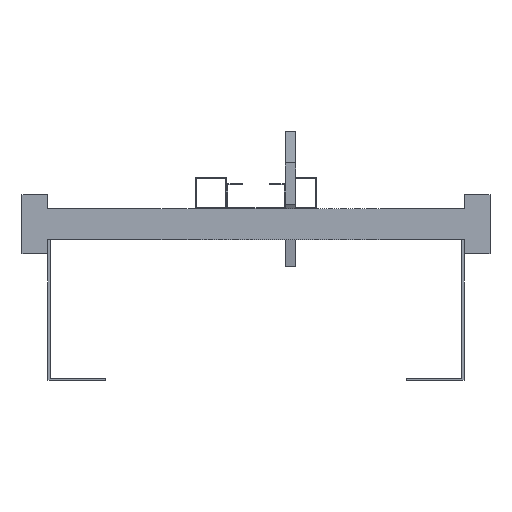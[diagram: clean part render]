
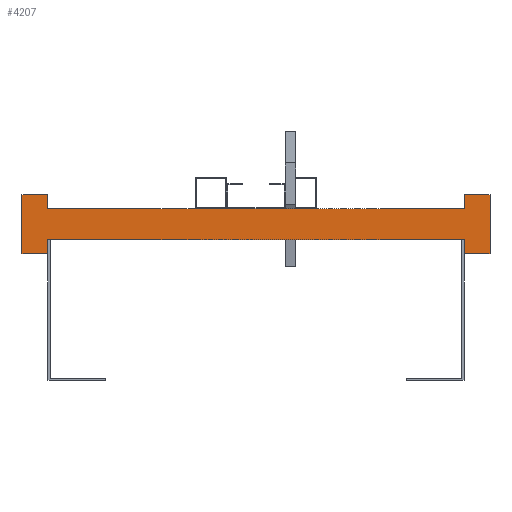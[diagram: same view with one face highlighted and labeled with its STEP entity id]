
A CAD part, front view. The second image highlights one B-rep face of the part: STEP entity #4207.
In plain terms, the highlighted planar face has unit normal (0, -1, 0).
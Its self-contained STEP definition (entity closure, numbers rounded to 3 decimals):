
#1425=DIRECTION('',(0.,0.,1.));
#1426=VECTOR('',#1425,13.5);
#1427=CARTESIAN_POINT('',(200.,0.,-28.5));
#1428=LINE('',#1427,#1426);
#1429=DIRECTION('',(0.,0.,-1.));
#1430=VECTOR('',#1429,13.5);
#1431=CARTESIAN_POINT('',(-200.,0.,-15.));
#1432=LINE('',#1431,#1430);
#1433=DIRECTION('',(-1.,0.,0.));
#1434=VECTOR('',#1433,25.);
#1435=CARTESIAN_POINT('',(-200.,0.,-28.5));
#1436=LINE('',#1435,#1434);
#1437=DIRECTION('',(0.,0.,1.));
#1438=VECTOR('',#1437,57.);
#1439=CARTESIAN_POINT('',(-225.,0.,-28.5));
#1440=LINE('',#1439,#1438);
#1441=DIRECTION('',(1.,0.,0.));
#1442=VECTOR('',#1441,25.);
#1443=CARTESIAN_POINT('',(-225.,0.,28.5));
#1444=LINE('',#1443,#1442);
#1445=DIRECTION('',(0.,0.,-1.));
#1446=VECTOR('',#1445,13.5);
#1447=CARTESIAN_POINT('',(-200.,0.,28.5));
#1448=LINE('',#1447,#1446);
#1449=DIRECTION('',(0.,0.,1.));
#1450=VECTOR('',#1449,13.5);
#1451=CARTESIAN_POINT('',(200.,0.,15.));
#1452=LINE('',#1451,#1450);
#1453=DIRECTION('',(1.,0.,0.));
#1454=VECTOR('',#1453,25.);
#1455=CARTESIAN_POINT('',(200.,0.,28.5));
#1456=LINE('',#1455,#1454);
#1457=DIRECTION('',(0.,0.,-1.));
#1458=VECTOR('',#1457,57.);
#1459=CARTESIAN_POINT('',(225.,0.,28.5));
#1460=LINE('',#1459,#1458);
#1461=DIRECTION('',(-1.,0.,0.));
#1462=VECTOR('',#1461,25.);
#1463=CARTESIAN_POINT('',(225.,0.,-28.5));
#1464=LINE('',#1463,#1462);
#1465=DIRECTION('',(1.,0.,0.));
#1466=VECTOR('',#1465,400.);
#1467=CARTESIAN_POINT('',(-200.,0.,-15.));
#1468=LINE('',#1467,#1466);
#1477=DIRECTION('',(1.,0.,0.));
#1478=VECTOR('',#1477,400.);
#1479=CARTESIAN_POINT('',(-200.,0.,15.));
#1480=LINE('',#1479,#1478);
#1761=CARTESIAN_POINT('',(-225.,0.,28.5));
#1762=CARTESIAN_POINT('',(-200.,0.,28.5));
#1763=VERTEX_POINT('',#1761);
#1764=VERTEX_POINT('',#1762);
#1765=CARTESIAN_POINT('',(-200.,0.,-28.5));
#1766=CARTESIAN_POINT('',(-225.,0.,-28.5));
#1767=VERTEX_POINT('',#1765);
#1768=VERTEX_POINT('',#1766);
#1769=CARTESIAN_POINT('',(225.,0.,28.5));
#1770=CARTESIAN_POINT('',(225.,0.,-28.5));
#1771=VERTEX_POINT('',#1769);
#1772=VERTEX_POINT('',#1770);
#1773=CARTESIAN_POINT('',(200.,0.,-28.5));
#1774=VERTEX_POINT('',#1773);
#1775=CARTESIAN_POINT('',(200.,0.,28.5));
#1776=VERTEX_POINT('',#1775);
#1793=CARTESIAN_POINT('',(-200.,0.,-15.));
#1795=VERTEX_POINT('',#1793);
#1797=CARTESIAN_POINT('',(-200.,0.,15.));
#1799=VERTEX_POINT('',#1797);
#1801=CARTESIAN_POINT('',(200.,0.,-15.));
#1803=VERTEX_POINT('',#1801);
#1805=CARTESIAN_POINT('',(200.,0.,15.));
#1807=VERTEX_POINT('',#1805);
#4182=CARTESIAN_POINT('',(0.,0.,0.));
#4183=DIRECTION('',(0.,1.,0.));
#4184=DIRECTION('',(1.,0.,0.));
#4185=AXIS2_PLACEMENT_3D('',#4182,#4183,#4184);
#4186=PLANE('',#4185);
#4187=ORIENTED_EDGE('',*,*,#2704,.T.);
#4189=ORIENTED_EDGE('',*,*,#4188,.F.);
#4190=ORIENTED_EDGE('',*,*,#2431,.T.);
#4191=ORIENTED_EDGE('',*,*,#2330,.T.);
#4193=ORIENTED_EDGE('',*,*,#4192,.T.);
#4195=ORIENTED_EDGE('',*,*,#4194,.T.);
#4196=ORIENTED_EDGE('',*,*,#2439,.T.);
#4198=ORIENTED_EDGE('',*,*,#4197,.T.);
#4199=ORIENTED_EDGE('',*,*,#2696,.T.);
#4201=ORIENTED_EDGE('',*,*,#4200,.T.);
#4203=ORIENTED_EDGE('',*,*,#4202,.T.);
#4204=ORIENTED_EDGE('',*,*,#3644,.T.);
#4205=EDGE_LOOP('',(#4187,#4189,#4190,#4191,#4193,#4195,#4196,#4198,#4199,#4201,
#4203,#4204));
#4206=FACE_OUTER_BOUND('',#4205,.F.);
#2330=EDGE_CURVE('',#1767,#1768,#1436,.T.);
#2431=EDGE_CURVE('',#1795,#1767,#1432,.T.);
#2439=EDGE_CURVE('',#1764,#1799,#1448,.T.);
#2696=EDGE_CURVE('',#1807,#1776,#1452,.T.);
#2704=EDGE_CURVE('',#1774,#1803,#1428,.T.);
#3644=EDGE_CURVE('',#1772,#1774,#1464,.T.);
#4188=EDGE_CURVE('',#1795,#1803,#1468,.T.);
#4192=EDGE_CURVE('',#1768,#1763,#1440,.T.);
#4194=EDGE_CURVE('',#1763,#1764,#1444,.T.);
#4197=EDGE_CURVE('',#1799,#1807,#1480,.T.);
#4200=EDGE_CURVE('',#1776,#1771,#1456,.T.);
#4202=EDGE_CURVE('',#1771,#1772,#1460,.T.);
#4207=ADVANCED_FACE('',(#4206),#4186,.F.);
